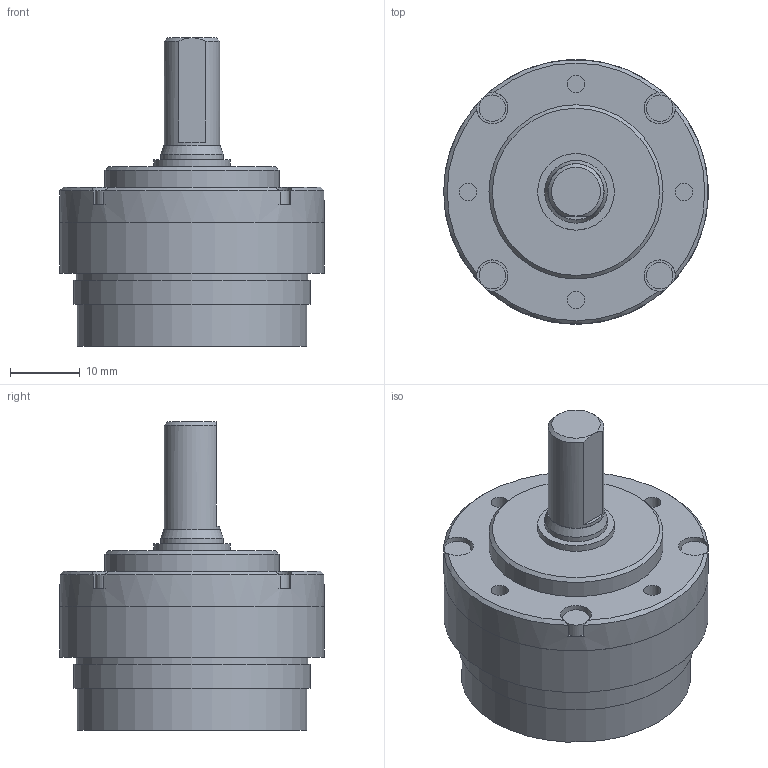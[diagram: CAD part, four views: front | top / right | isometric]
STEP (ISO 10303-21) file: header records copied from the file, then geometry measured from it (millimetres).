
FILE_DESCRIPTION(/* description */ (''),/* implementation_level */ '2;1');
FILE_NAME(/* name */ '38-2_1.stp',/* time_stamp */ '2016-09-16T10:38:17+02:00',/* author */ ('DR. FRITZ FAULHABER GmbH & Co. KG'),/* organization */ ('DR. FRITZ FAULHABER GmbH & Co. KG'),/* preprocessor_version */ 'ST-DEVELOPER v16',/* originating_system */ 'SIEMENS PLM Software NX 10.0',/* authorisation */ '');
FILE_SCHEMA (('AUTOMOTIVE_DESIGN { 1 0 10303 214 3 1 1 1 }'));
Length unit declared in the file: millimetre
Products named in the file (1): huge19E82220l2o8
Bounding box: 38 x 38 x 44.3 mm (x, y, z)
Volume: 24536.6 mm3; surface area: 6282.4 mm2
Topology: 1 solids, 1 shells, 66 faces, 127 edges, 85 vertices
Faces by surface type: plane 30, cylinder 28, cone 8
Full cylindrical faces by diameter (mm): 2.5 x4, 3.8 x4, 4 x1, 8 x1, 9 x1, 11 x1, 11.8 x1, 12 x1, 13 x1, 25 x1, 26.9 x1, 27.57 x1, 33 x1, 33.2 x1, 34 x1, 37.99 x1, 38 x2
Entity records: 1552 total; most frequent: DIRECTION 287, CARTESIAN_POINT 270, ORIENTED_EDGE 184, AXIS2_PLACEMENT_3D 138, EDGE_LOOP 115, FACE_BOUND 96, EDGE_CURVE 92, VERTEX_POINT 78
